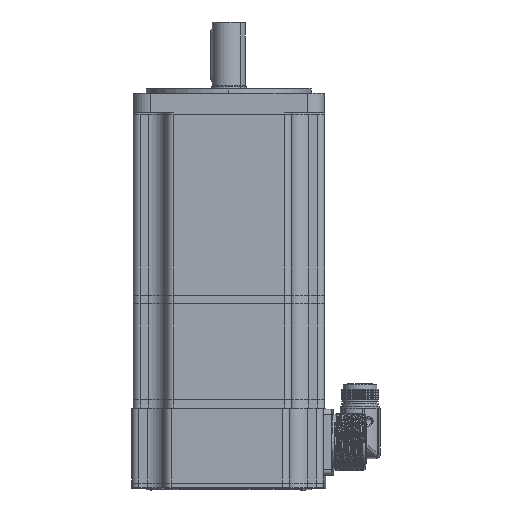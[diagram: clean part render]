
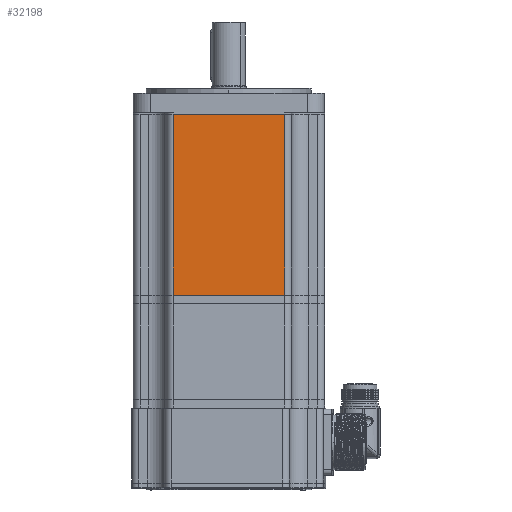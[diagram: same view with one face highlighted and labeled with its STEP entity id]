
A CAD part, left-side view. The second image highlights one B-rep face of the part: STEP entity #32198.
In plain terms, the highlighted planar face has unit normal (-1, 0, 0).
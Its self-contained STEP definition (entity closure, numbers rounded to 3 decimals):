
#9245 = CARTESIAN_POINT ( 'NONE',  ( -44.843, 48.866, -44.073 ) ) ;
#9246 = LINE ( 'NONE', #9245, #9305 ) ;
#9247 = CARTESIAN_POINT ( 'NONE',  ( -44.843, 34.866, -44.073 ) ) ;
#9248 = DIRECTION ( 'NONE',  ( 0., 0., 1. ) ) ;
#9249 = VECTOR ( 'NONE', #9248, 1000. ) ;
#9250 = CARTESIAN_POINT ( 'NONE',  ( -44.843, 34.866, 59.927 ) ) ;
#9251 = LINE ( 'NONE', #9250, #9249 ) ;
#9252 = DIRECTION ( 'NONE',  ( 0., -1., 0. ) ) ;
#9253 = VECTOR ( 'NONE', #9252, 1000. ) ;
#9254 = CARTESIAN_POINT ( 'NONE',  ( -44.843, 48.866, 59.927 ) ) ;
#9255 = LINE ( 'NONE', #9254, #9253 ) ;
#9277 = FACE_OUTER_BOUND ( 'NONE', #32199, .T. ) ;
#9278 = CARTESIAN_POINT ( 'NONE',  ( -44.843, -29.134, -44.073 ) ) ;
#9279 = DIRECTION ( 'NONE',  ( 0., 0., -1. ) ) ;
#9280 = VECTOR ( 'NONE', #9279, 1000. ) ;
#9281 = CARTESIAN_POINT ( 'NONE',  ( -44.843, -29.134, 59.927 ) ) ;
#9282 = LINE ( 'NONE', #9281, #9280 ) ;
#9283 = CARTESIAN_POINT ( 'NONE',  ( -44.843, -29.134, 59.927 ) ) ;
#9304 = DIRECTION ( 'NONE',  ( 0., -1., 0. ) ) ;
#9305 = VECTOR ( 'NONE', #9304, 1000. ) ;
#9329 = CARTESIAN_POINT ( 'NONE',  ( -44.843, 34.866, 59.927 ) ) ;
#9330 = DIRECTION ( 'NONE',  ( 0., 1., 0. ) ) ;
#9331 = DIRECTION ( 'NONE',  ( 1., 0., 0. ) ) ;
#9332 = CARTESIAN_POINT ( 'NONE',  ( -44.843, 34.866, 59.927 ) ) ;
#9333 = AXIS2_PLACEMENT_3D ( 'NONE', #9332, #9331, #9330 ) ;
#9334 = PLANE ( 'NONE',  #9333 ) ;
#32175 = EDGE_CURVE ( 'NONE', #32202, #32191, #9255, .T. ) ;
#32176 = ORIENTED_EDGE ( 'NONE', *, *, #32177, .F. ) ;
#32177 = EDGE_CURVE ( 'NONE', #32178, #32202, #9251, .T. ) ;
#32178 = VERTEX_POINT ( 'NONE', #9247 ) ;
#32179 = ORIENTED_EDGE ( 'NONE', *, *, #32180, .T. ) ;
#32180 = EDGE_CURVE ( 'NONE', #32178, #32194, #9246, .T. ) ;
#32191 = VERTEX_POINT ( 'NONE', #9283 ) ;
#32193 = EDGE_CURVE ( 'NONE', #32191, #32194, #9282, .T. ) ;
#32194 = VERTEX_POINT ( 'NONE', #9278 ) ;
#32198 = ADVANCED_FACE ( 'NONE', ( #9277 ), #9334, .F. ) ;
#32199 = EDGE_LOOP ( 'NONE', ( #32200, #32201, #32176, #32179 ) ) ;
#32200 = ORIENTED_EDGE ( 'NONE', *, *, #32193, .F. ) ;
#32201 = ORIENTED_EDGE ( 'NONE', *, *, #32175, .F. ) ;
#32202 = VERTEX_POINT ( 'NONE', #9329 ) ;
